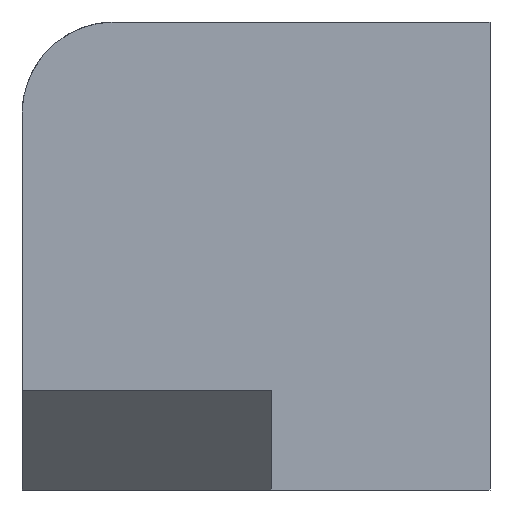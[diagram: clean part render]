
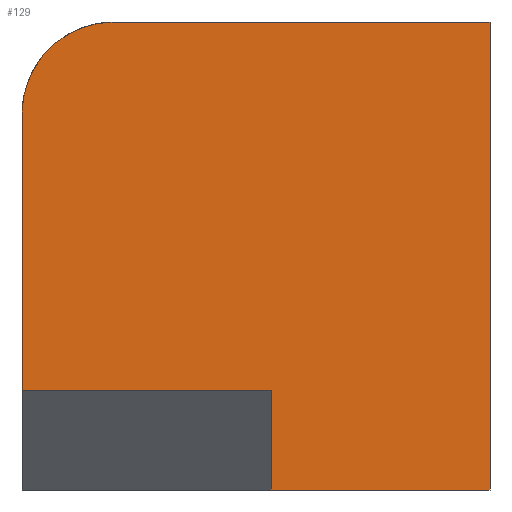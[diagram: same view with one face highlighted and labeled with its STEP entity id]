
A CAD part, front view. The second image highlights one B-rep face of the part: STEP entity #129.
In plain terms, the highlighted planar face has unit normal (0, -1, 0).
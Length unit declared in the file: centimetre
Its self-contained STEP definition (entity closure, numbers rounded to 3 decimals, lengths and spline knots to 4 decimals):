
#6 = CARTESIAN_POINT ( 'NONE',  ( 196.8683, 0., 803.1317 ) ) ;
#22 = VERTEX_POINT ( 'NONE', #461 ) ;
#37 = DIRECTION ( 'NONE',  ( 0., 0., -1. ) ) ;
#71 = LINE ( 'NONE', #1594, #135 ) ;
#73 = VECTOR ( 'NONE', #762, 100. ) ;
#101 = CARTESIAN_POINT ( 'NONE',  ( 196.8683, 0., 1000. ) ) ;
#129 = ADVANCED_FACE ( 'NONE', ( #1603 ), #226, .F. ) ;
#133 = LINE ( 'NONE', #1620, #1304 ) ;
#135 = VECTOR ( 'NONE', #620, 100. ) ;
#149 = DIRECTION ( 'NONE',  ( 1., 0., 0. ) ) ;
#150 = EDGE_CURVE ( 'NONE', #795, #818, #71, .T. ) ;
#186 = CIRCLE ( 'NONE', #1188, 196.8683 ) ;
#205 = EDGE_CURVE ( 'NONE', #258, #1212, #935, .T. ) ;
#225 = CARTESIAN_POINT ( 'NONE',  ( 1000., 0., 1000. ) ) ;
#226 = PLANE ( 'NONE',  #1338 ) ;
#229 = CARTESIAN_POINT ( 'NONE',  ( 0., 0., 1000. ) ) ;
#239 = ORIENTED_EDGE ( 'NONE', *, *, #728, .F. ) ;
#258 = VERTEX_POINT ( 'NONE', #800 ) ;
#388 = VERTEX_POINT ( 'NONE', #1208 ) ;
#404 = CARTESIAN_POINT ( 'NONE',  ( 0., 0., 803.1317 ) ) ;
#424 = VECTOR ( 'NONE', #1597, 100. ) ;
#451 = LINE ( 'NONE', #742, #475 ) ;
#461 = CARTESIAN_POINT ( 'NONE',  ( 1000., 0., 0. ) ) ;
#475 = VECTOR ( 'NONE', #37, 100. ) ;
#523 = VERTEX_POINT ( 'NONE', #404 ) ;
#608 = ORIENTED_EDGE ( 'NONE', *, *, #150, .F. ) ;
#620 = DIRECTION ( 'NONE',  ( 1., 0., 0. ) ) ;
#697 = CARTESIAN_POINT ( 'NONE',  ( 532.1822, 0., 212.782 ) ) ;
#728 = EDGE_CURVE ( 'NONE', #818, #22, #451, .T. ) ;
#742 = CARTESIAN_POINT ( 'NONE',  ( 1000., 0., 1000. ) ) ;
#762 = DIRECTION ( 'NONE',  ( 0., 0., 1. ) ) ;
#795 = VERTEX_POINT ( 'NONE', #101 ) ;
#800 = CARTESIAN_POINT ( 'NONE',  ( 532.1822, 0., 212.782 ) ) ;
#818 = VERTEX_POINT ( 'NONE', #225 ) ;
#935 = LINE ( 'NONE', #697, #1052 ) ;
#950 = EDGE_CURVE ( 'NONE', #388, #258, #1001, .T. ) ;
#1001 = LINE ( 'NONE', #1153, #73 ) ;
#1014 = EDGE_CURVE ( 'NONE', #523, #1212, #1588, .T. ) ;
#1052 = VECTOR ( 'NONE', #1370, 100. ) ;
#1114 = EDGE_CURVE ( 'NONE', #795, #523, #186, .T. ) ;
#1153 = CARTESIAN_POINT ( 'NONE',  ( 532.1822, 0., 212.782 ) ) ;
#1168 = CARTESIAN_POINT ( 'NONE',  ( 0., 0., 1000. ) ) ;
#1188 = AXIS2_PLACEMENT_3D ( 'NONE', #6, #1266, #1655 ) ;
#1197 = DIRECTION ( 'NONE',  ( 0., 0., 1. ) ) ;
#1208 = CARTESIAN_POINT ( 'NONE',  ( 532.1822, 0., 0. ) ) ;
#1211 = EDGE_CURVE ( 'NONE', #388, #22, #133, .T. ) ;
#1212 = VERTEX_POINT ( 'NONE', #1610 ) ;
#1266 = DIRECTION ( 'NONE',  ( 0., -1., 0. ) ) ;
#1304 = VECTOR ( 'NONE', #149, 100. ) ;
#1317 = DIRECTION ( 'NONE',  ( 0., 1., 0. ) ) ;
#1338 = AXIS2_PLACEMENT_3D ( 'NONE', #1168, #1317, #1197 ) ;
#1365 = EDGE_LOOP ( 'NONE', ( #1714, #1495, #1687, #1760, #239, #608, #1437 ) ) ;
#1370 = DIRECTION ( 'NONE',  ( -1., 0., 0. ) ) ;
#1437 = ORIENTED_EDGE ( 'NONE', *, *, #1114, .T. ) ;
#1495 = ORIENTED_EDGE ( 'NONE', *, *, #205, .F. ) ;
#1588 = LINE ( 'NONE', #229, #424 ) ;
#1594 = CARTESIAN_POINT ( 'NONE',  ( 0., 0., 1000. ) ) ;
#1597 = DIRECTION ( 'NONE',  ( 0., 0., -1. ) ) ;
#1603 = FACE_OUTER_BOUND ( 'NONE', #1365, .T. ) ;
#1610 = CARTESIAN_POINT ( 'NONE',  ( 0., 0., 212.782 ) ) ;
#1620 = CARTESIAN_POINT ( 'NONE',  ( 0., 0., 0. ) ) ;
#1655 = DIRECTION ( 'NONE',  ( 0., 0., 1. ) ) ;
#1687 = ORIENTED_EDGE ( 'NONE', *, *, #950, .F. ) ;
#1714 = ORIENTED_EDGE ( 'NONE', *, *, #1014, .T. ) ;
#1760 = ORIENTED_EDGE ( 'NONE', *, *, #1211, .T. ) ;
